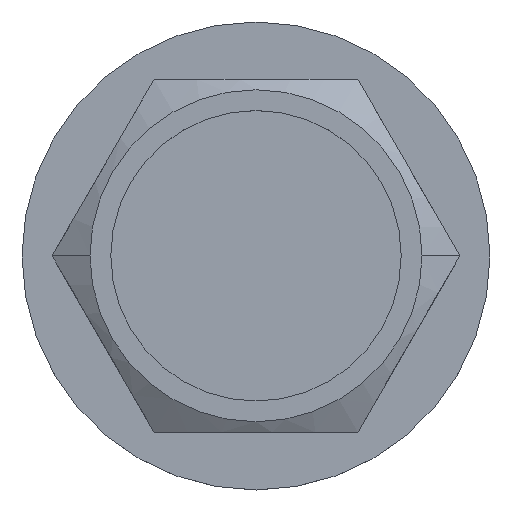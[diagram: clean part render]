
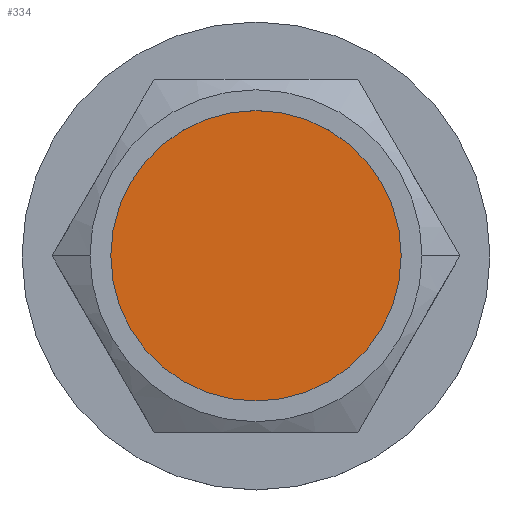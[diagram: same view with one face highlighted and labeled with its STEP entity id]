
A CAD part, top view. The second image highlights one B-rep face of the part: STEP entity #334.
In plain terms, the highlighted planar face has unit normal (0, 0, 1).
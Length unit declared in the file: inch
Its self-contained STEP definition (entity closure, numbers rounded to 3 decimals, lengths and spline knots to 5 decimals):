
#1=CARTESIAN_POINT('',(0.,0.,0.12));
#2=DIRECTION('',(0.,0.,1.));
#3=DIRECTION('',(1.,0.,0.));
#4=AXIS2_PLACEMENT_3D('',#1,#2,#3);
#6=CARTESIAN_POINT('',(0.,0.,0.12));
#7=DIRECTION('',(0.,0.,1.));
#8=DIRECTION('',(-1.,0.,0.));
#9=AXIS2_PLACEMENT_3D('',#6,#7,#8);
#287=CARTESIAN_POINT('',(0.18,0.,0.12));
#288=CARTESIAN_POINT('',(-0.18,0.,0.12));
#289=VERTEX_POINT('',#287);
#290=VERTEX_POINT('',#288);
#323=CARTESIAN_POINT('',(0.,0.,0.12));
#324=DIRECTION('',(0.,0.,-1.));
#325=DIRECTION('',(-1.,0.,0.));
#326=AXIS2_PLACEMENT_3D('',#323,#324,#325);
#327=PLANE('',#326);
#329=ORIENTED_EDGE('',*,*,#328,.F.);
#331=ORIENTED_EDGE('',*,*,#330,.F.);
#332=EDGE_LOOP('',(#329,#331));
#333=FACE_OUTER_BOUND('',#332,.F.);
#5=CIRCLE('',#4,0.18);
#10=CIRCLE('',#9,0.18);
#328=EDGE_CURVE('',#289,#290,#5,.T.);
#330=EDGE_CURVE('',#290,#289,#10,.T.);
#334=ADVANCED_FACE('',(#333),#327,.F.);
